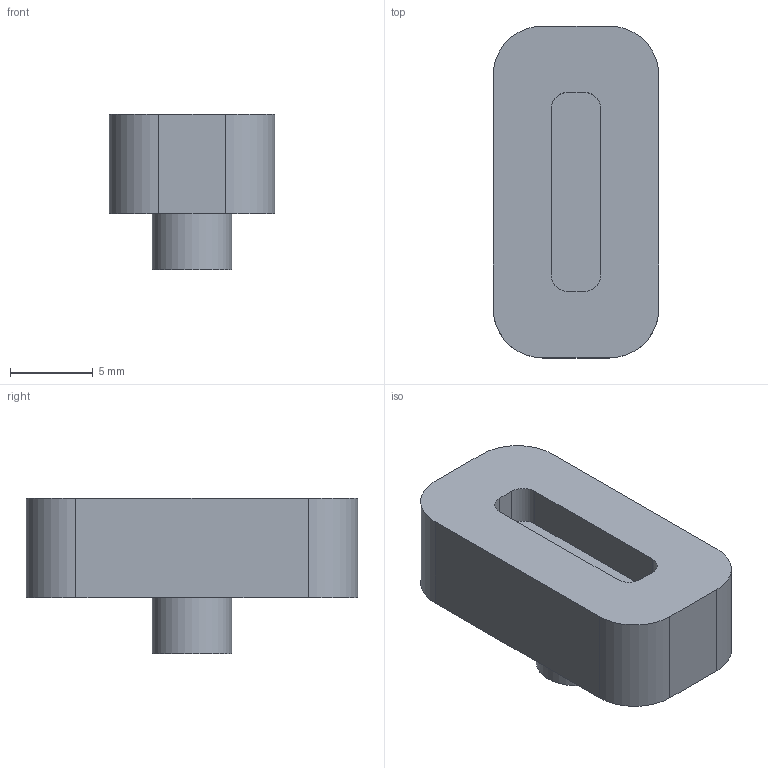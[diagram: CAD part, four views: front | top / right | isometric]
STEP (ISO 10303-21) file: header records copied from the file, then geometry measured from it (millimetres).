
FILE_DESCRIPTION(('Open CASCADE Model'),'2;1');
FILE_NAME('Open CASCADE Shape Model','2026-09-13T15:26:30',('Author'),( 'Open CASCADE'),'Open CASCADE STEP processor 7.9','build123d', 'Unknown');
FILE_SCHEMA(('AUTOMOTIVE_DESIGN { 1 0 10303 214 1 1 1 1 }'));
Length unit declared in the file: millimetre
Products named in the file (2): =>[0:1:1:2]; COMPOUND
Assembly tree (1 placements, depth 2):
  =>[0:1:1:2]
    COMPOUND
Bounding box: 10 x 20 x 9.4 mm (x, y, z)
Volume: 1130.8 mm3; surface area: 832.8 mm2
Topology: 1 solids, 1 shells, 21 faces, 54 edges, 37 vertices
Faces by surface type: plane 12, cylinder 9
Full cylindrical faces by diameter (mm): 4.8 x1
Entity records: 1420 total; most frequent: CARTESIAN_POINT 326, DIRECTION 202, LINE 118, VECTOR 118, ORIENTED_EDGE 108, PCURVE 108, DEFINITIONAL_REPRESENTATION 108, EDGE_CURVE 54
